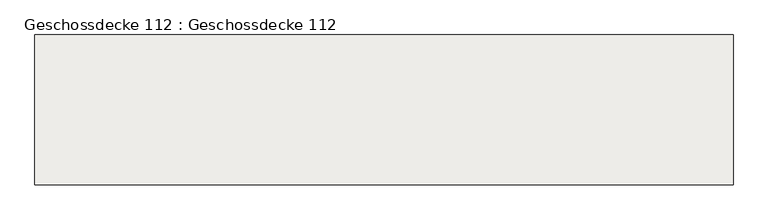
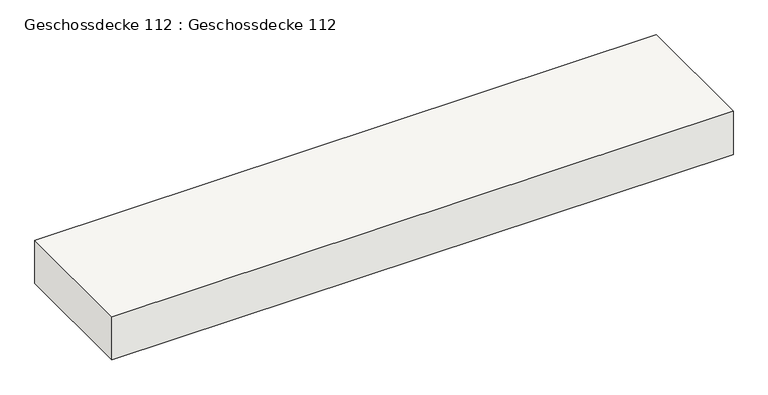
"""IFC4 building model written with IfcOpenShell, lengths in millimetres: slab geometry, Geschossdecke 112 : Geschossdecke 112."""

from ifc_helpers import new_model, si_unit, frame, origin, place, context, project, spatial, polyline, outline, extrude, source, transform, mapped, element, save


def geschossdecke_112_geschossdecke_112_57db8b89(model_context):
    return source(origin(), model_context, "Body", "SweptSolid", [
        extrude(outline(polyline([(9324.1639552, 6283.4498281), (9324.1639552, 6866.2768971), (12035.8855919, 6866.2768971), (12035.8855919, 6283.4498281), (9324.1639552, 6283.4498281)])), frame((0.0, 0.0, 2950.0), z_axis=(0.0, 0.0, 1.0), x_axis=(1.0, 0.0, 0.0)), (0.0, 0.0, 1.0), 200.0),
    ])


if __name__ == "__main__":
    model = new_model("IFC4")
    model_context = context("Model", 3, world=origin())
    ifc_project = project(units=[si_unit("LENGTHUNIT", "METRE", prefix="MILLI")], contexts=[model_context])
    site = spatial("IfcSite", under=ifc_project)
    building = spatial("IfcBuilding", under=site)
    placement = place(None, origin())
    geschossdecke_112_geschossdecke_112_shape = geschossdecke_112_geschossdecke_112_57db8b89(model_context)
    element("IfcSlab", 1, ObjectType="Geschossdecke 112 : Geschossdecke 112", at=placement, inside=building, context=model_context, shape_type="MappedRepresentation", body=[
        mapped(geschossdecke_112_geschossdecke_112_shape, transform((0.0, 0.0, 0.0), x_axis=(1.0, 0.0, 0.0), y_axis=(0.0, 1.0, 0.0), z_axis=(0.0, 0.0, 1.0))),
    ])
    save(model, "model.ifc")
